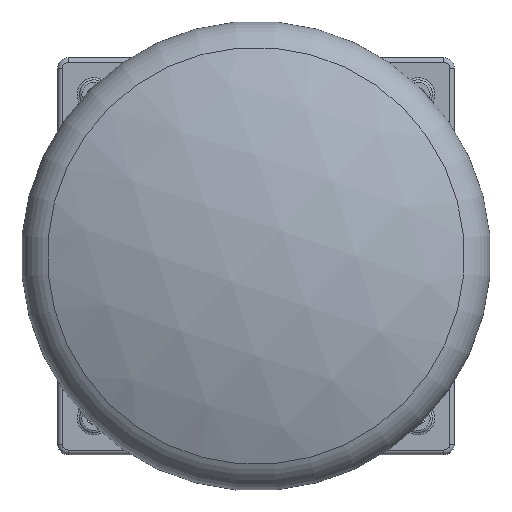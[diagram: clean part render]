
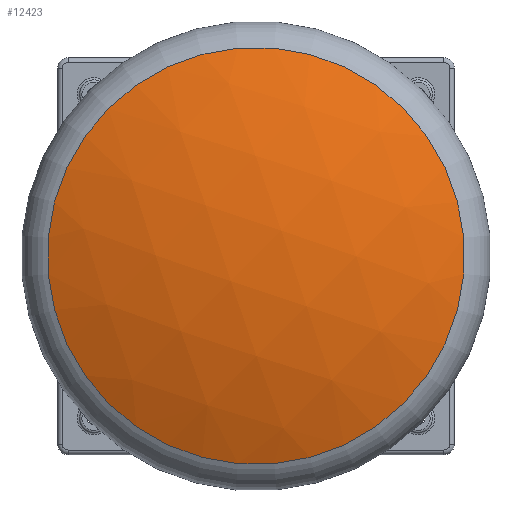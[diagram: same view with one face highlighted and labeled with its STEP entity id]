
A CAD part, top view. The second image highlights one B-rep face of the part: STEP entity #12423.
In plain terms, the highlighted spherical face has radius 400 mm.
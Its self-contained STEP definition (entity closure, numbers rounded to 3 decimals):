
#27=SPHERICAL_SURFACE('',#13023,400.);
#1152=FACE_OUTER_BOUND('',#1905,.T.);
#1905=EDGE_LOOP('',(#10285));
#4368=CIRCLE('',#13022,157.638);
#5525=VERTEX_POINT('',#27138);
#7155=EDGE_CURVE('',#5525,#5525,#4368,.T.);
#10285=ORIENTED_EDGE('',*,*,#7155,.T.);
#12423=ADVANCED_FACE('',(#1152),#27,.T.);
#13022=AXIS2_PLACEMENT_3D('',#27139,#14562,#14563);
#13023=AXIS2_PLACEMENT_3D('',#27140,#14564,#14565);
#14562=DIRECTION('center_axis',(0.,0.,
1.));
#14563=DIRECTION('ref_axis',(-0.707,-0.707,0.));
#14564=DIRECTION('center_axis',(0.707,-0.707,0.));
#14565=DIRECTION('ref_axis',(0.707,0.707,0.));
#27138=CARTESIAN_POINT('',(-111.424,-111.51,144.813));
#27139=CARTESIAN_POINT('Origin',(0.,0.,
144.813));
#27140=CARTESIAN_POINT('Origin',(0.,0.,
-222.815));
